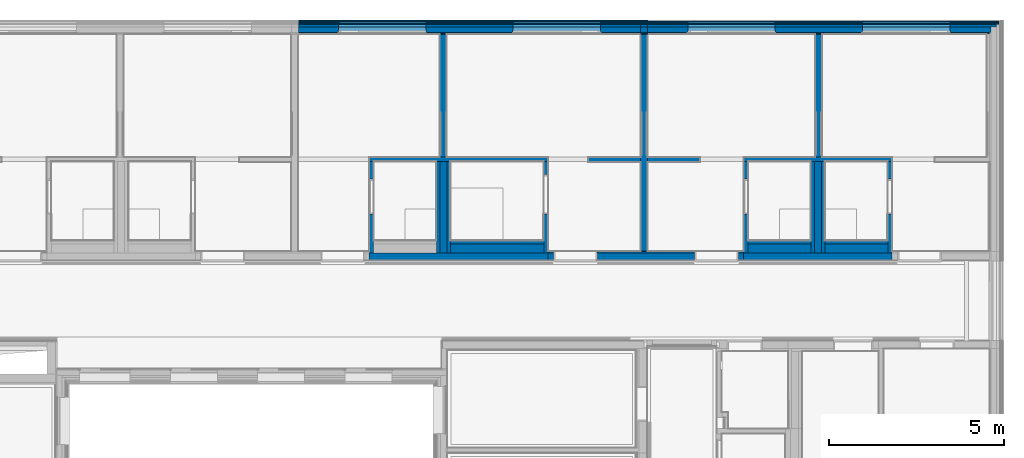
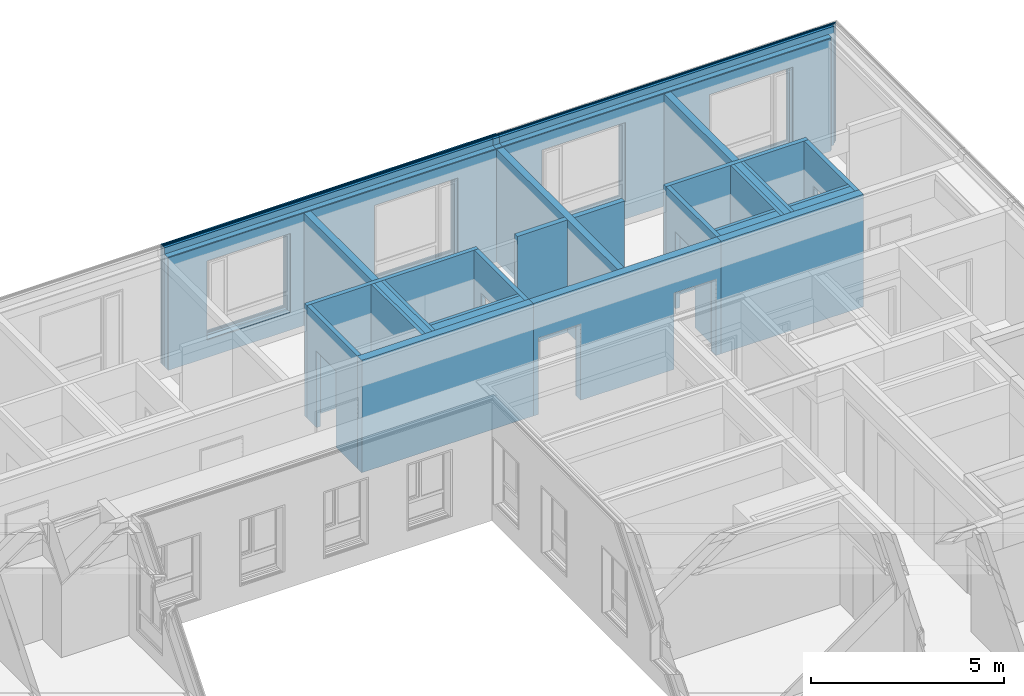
# One storey, part 56 of 222: 47 walls, 34 openings.
"""IFC4 building model written with IfcOpenShell, lengths in metres."""

from ifc_helpers import new_model, entity, si_unit, converted_unit, derived_unit, frame, frame_2d, origin, origin_with_axes, place, context, subcontext, project, spatial, polyline, rectangle, outline, extrude, material, element, save


model = new_model("IFC4")

# Units and contexts
model_context = context("Model", 3, precision=1e-05, world=origin())
body_context = subcontext(model_context, "Body", "Model", "MODEL_VIEW")
ifc_project = project(units=[si_unit("LENGTHUNIT", "METRE"), si_unit("AREAUNIT", "SQUARE_METRE"), si_unit("VOLUMEUNIT", "CUBIC_METRE"), si_unit("MASSUNIT", "GRAM", prefix="KILO"), converted_unit("PLANEANGLEUNIT", "DEGREE", entity("IfcPlaneAngleMeasure", 0.0174532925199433), si_unit("PLANEANGLEUNIT", "RADIAN"), dimensions=[0, 0, 0, 0, 0, 0, 0]), derived_unit("THERMALTRANSMITTANCEUNIT", [(si_unit("POWERUNIT", "WATT"), 1), (si_unit("THERMODYNAMICTEMPERATUREUNIT", "KELVIN"), -1), (si_unit("LENGTHUNIT", "METRE"), -2)]), derived_unit("VOLUMETRICFLOWRATEUNIT", [(si_unit("LENGTHUNIT", "METRE"), 3), (converted_unit("TIMEUNIT", "hour", entity("IfcTimeMeasure", 3600.0), si_unit("TIMEUNIT", "SECOND"), dimensions=[0, 0, 1, 0, 0, 0, 0]), -1), (si_unit("LENGTHUNIT", "METRE"), -1)])], contexts=[model_context])

# Site, building, storey
site_placement = place(None, origin())
site = spatial("IfcSite", under=ifc_project, at=site_placement, Name="Psychiatrie Neubau Wunstorf", CompositionType="ELEMENT")
building_placement = place(site_placement, origin())
building = spatial("IfcBuilding", under=site, at=building_placement, Name="Neubau H2 Stationsgebäude", CompositionType="ELEMENT")
storey_placement = place(building_placement, frame((0.0, 0.0, 3.6)))
storey = spatial("IfcBuildingStorey", under=building, at=storey_placement, Name="H2 Ebene +1", CompositionType="ELEMENT", Elevation=3.6)

# Walls
ifc_material_1 = material(Name="WA-LB")
wall_1_placement = place(storey_placement, frame((95.9, 31.614, 0.0)))
element("IfcWall", 1, at=wall_1_placement, inside=storey, material=ifc_material_1, Name="2x Gipsfaserplatte", context=body_context, shape_type="SweptSolid", body=[
    extrude(rectangle(XDim=0.2, YDim=0.036, at=frame_2d((0.1, 0.018), x_axis=(1.0, 0.0))), origin_with_axes(), (0.0, 0.0, 1.0), 3.55),
])
ifc_material_2 = material(Name="WA-HD")
wall_2_placement = place(storey_placement, frame((95.9, 31.65, 0.0)))
element("IfcWall", 2, at=wall_2_placement, inside=storey, material=ifc_material_2, Name="Holzständer + Zwischendämmung", context=body_context, shape_type="SweptSolid", body=[
    extrude(rectangle(XDim=0.2, YDim=0.16, at=frame_2d((0.1, 0.08), x_axis=(1.0, 0.0))), origin_with_axes(), (0.0, 0.0, 1.0), 3.55),
])
ifc_material_3 = material(Name="WA-DL")
wall_3_placement = place(storey_placement, frame((95.9, 31.81, 0.0)))
element("IfcWall", 3, at=wall_3_placement, inside=storey, material=ifc_material_3, Name="Staffel + Zwischendämmung", context=body_context, shape_type="SweptSolid", body=[
    extrude(rectangle(XDim=0.2, YDim=0.08, at=frame_2d((0.1, 0.04), x_axis=(1.0, 0.0))), origin_with_axes(), (0.0, 0.0, 1.0), 3.75),
])
ifc_material_4 = material(Name="WA-LB")
wall_4_placement = place(storey_placement, frame((95.9, 31.89, 0.0)))
element("IfcWall", 4, at=wall_4_placement, inside=storey, material=ifc_material_4, context=body_context, shape_type="SweptSolid", body=[
    extrude(rectangle(XDim=0.2, YDim=0.036, at=frame_2d((0.1, 0.018), x_axis=(1.0, 0.0))), origin_with_axes(), (0.0, 0.0, 1.0), 3.75),
])
ifc_material_5 = material(Name="WA-KL")
wall_5_placement = place(storey_placement, frame((95.9, 31.926, 0.0)))
element("IfcWall", 5, at=wall_5_placement, inside=storey, material=ifc_material_5, Name="Konterlattung", context=body_context, shape_type="SweptSolid", body=[
    extrude(rectangle(XDim=0.2, YDim=0.024, at=frame_2d((0.1, 0.012), x_axis=(1.0, 0.0))), origin_with_axes(), (0.0, 0.0, 1.0), 3.75),
])
ifc_material_6 = material(Name="WA-TL")
wall_6_placement = place(storey_placement, frame((95.9, 31.95, 0.0)))
element("IfcWall", 6, at=wall_6_placement, inside=storey, material=ifc_material_6, Name="Traglattung", context=body_context, shape_type="SweptSolid", body=[
    extrude(rectangle(XDim=0.2, YDim=0.024, at=frame_2d((0.1, 0.012), x_axis=(1.0, 0.0))), origin_with_axes(), (0.0, 0.0, 1.0), 3.75),
])
ifc_material_7 = material(Name="WA-HS")
wall_7_placement = place(storey_placement, frame((95.9, 31.974, 0.0)))
element("IfcWall", 7, at=wall_7_placement, inside=storey, material=ifc_material_7, Name="Holzschindel", context=body_context, shape_type="SweptSolid", body=[
    extrude(rectangle(XDim=0.2, YDim=0.042, at=frame_2d((0.1, 0.021), x_axis=(1.0, 0.0))), origin_with_axes(), (0.0, 0.0, 1.0), 3.75),
])

# Wall, openings
ifc_material_8 = material(Name="WA-LB")
wall_8_placement = place(storey_placement, frame((96.1, 31.614, 0.0)))
wall_8 = element("IfcWall", 8, at=wall_8_placement, inside=storey, material=ifc_material_8, context=body_context, shape_type="SweptSolid", body=[
    extrude(rectangle(XDim=9.789, YDim=0.036, at=frame_2d((4.8945, 0.018), x_axis=(1.0, 0.0))), origin_with_axes(), (0.0, 0.0, 1.0), 3.55),
])
opening_1_placement = place(wall_8_placement, frame((6.15, 0.0, 0.55), z_axis=(0.0, 1.0, 0.0), x_axis=(0.0, 0.0, 1.0)))
element("IfcOpeningElement", 9, at=opening_1_placement, cuts=wall_8, Name="Fensteröffnung", ObjectType="Opening", context=body_context, shape_type="SweptSolid", body=[
    extrude(outline(polyline([(2.5, 2.5), (2.5, 0.0), (0.0, 0.0), (0.0, 2.5), (2.5, 2.5)])), origin_with_axes(), (0.0, 0.0, 1.0), 0.036),
])
opening_2_placement = place(wall_8_placement, frame((1.15, 0.0, 0.55), z_axis=(0.0, 1.0, 0.0), x_axis=(0.0, 0.0, 1.0)))
element("IfcOpeningElement", 10, at=opening_2_placement, cuts=wall_8, Name="Fensteröffnung", ObjectType="Opening", context=body_context, shape_type="SweptSolid", body=[
    extrude(outline(polyline([(2.5, 2.5), (2.5, 0.0), (0.0, 0.0), (0.0, 2.5), (2.5, 2.5)])), origin_with_axes(), (0.0, 0.0, 1.0), 0.036),
])

ifc_material_9 = material(Name="WA-HD")
wall_9_placement = place(storey_placement, frame((96.1, 31.65, 0.0)))
wall_9 = element("IfcWall", 11, at=wall_9_placement, inside=storey, material=ifc_material_9, context=body_context, shape_type="SweptSolid", body=[
    extrude(rectangle(XDim=9.825, YDim=0.16, at=frame_2d((4.9125, 0.08), x_axis=(1.0, 0.0))), origin_with_axes(), (0.0, 0.0, 1.0), 3.55),
])
opening_3_placement = place(wall_9_placement, frame((6.15, 0.0, 0.55), z_axis=(0.0, 1.0, 0.0), x_axis=(0.0, 0.0, 1.0)))
element("IfcOpeningElement", 12, at=opening_3_placement, cuts=wall_9, Name="Fensteröffnung", ObjectType="Opening", context=body_context, shape_type="SweptSolid", body=[
    extrude(outline(polyline([(2.5, 2.5), (2.5, 0.0), (0.0, 0.0), (0.0, 2.5), (2.5, 2.5)])), origin_with_axes(), (0.0, 0.0, 1.0), 0.16),
])
opening_4_placement = place(wall_9_placement, frame((1.15, 0.0, 0.55), z_axis=(0.0, 1.0, 0.0), x_axis=(0.0, 0.0, 1.0)))
element("IfcOpeningElement", 13, at=opening_4_placement, cuts=wall_9, Name="Fensteröffnung", ObjectType="Opening", context=body_context, shape_type="SweptSolid", body=[
    extrude(outline(polyline([(2.5, 2.5), (2.5, 0.0), (0.0, 0.0), (0.0, 2.5), (2.5, 2.5)])), origin_with_axes(), (0.0, 0.0, 1.0), 0.16),
])

ifc_material_10 = material(Name="WA-DL")
wall_10_placement = place(storey_placement, frame((96.1, 31.81, 0.0)))
wall_10 = element("IfcWall", 14, at=wall_10_placement, inside=storey, material=ifc_material_10, context=body_context, shape_type="SweptSolid", body=[
    extrude(rectangle(XDim=9.985, YDim=0.08, at=frame_2d((4.9925, 0.04), x_axis=(1.0, 0.0))), origin_with_axes(), (0.0, 0.0, 1.0), 3.75),
])
opening_5_placement = place(wall_10_placement, frame((6.15, 0.0, 0.55), z_axis=(0.0, 1.0, 0.0), x_axis=(0.0, 0.0, 1.0)))
element("IfcOpeningElement", 15, at=opening_5_placement, cuts=wall_10, Name="Fensteröffnung", ObjectType="Opening", context=body_context, shape_type="SweptSolid", body=[
    extrude(outline(polyline([(2.5, 2.5), (2.5, 0.0), (0.0, 0.0), (0.0, 2.5), (2.5, 2.5)])), origin_with_axes(), (0.0, 0.0, 1.0), 0.08),
])
opening_6_placement = place(wall_10_placement, frame((1.15, 0.0, 0.55), z_axis=(0.0, 1.0, 0.0), x_axis=(0.0, 0.0, 1.0)))
element("IfcOpeningElement", 16, at=opening_6_placement, cuts=wall_10, Name="Fensteröffnung", ObjectType="Opening", context=body_context, shape_type="SweptSolid", body=[
    extrude(outline(polyline([(2.5, 2.5), (2.5, 0.0), (0.0, 0.0), (0.0, 2.5), (2.5, 2.5)])), origin_with_axes(), (0.0, 0.0, 1.0), 0.08),
])

ifc_material_11 = material(Name="WA-LB")
wall_11_placement = place(storey_placement, frame((96.1, 31.89, 0.0)))
wall_11 = element("IfcWall", 17, at=wall_11_placement, inside=storey, material=ifc_material_11, context=body_context, shape_type="SweptSolid", body=[
    extrude(rectangle(XDim=10.065, YDim=0.036, at=frame_2d((5.0325, 0.018), x_axis=(1.0, 0.0))), origin_with_axes(), (0.0, 0.0, 1.0), 3.75),
])
opening_7_placement = place(wall_11_placement, frame((6.15, 0.0, 0.55), z_axis=(0.0, 1.0, 0.0), x_axis=(0.0, 0.0, 1.0)))
element("IfcOpeningElement", 18, at=opening_7_placement, cuts=wall_11, Name="Fensteröffnung", ObjectType="Opening", context=body_context, shape_type="SweptSolid", body=[
    extrude(outline(polyline([(2.5, 2.5), (2.5, 0.0), (0.0, 0.0), (0.0, 2.5), (2.5, 2.5)])), origin_with_axes(), (0.0, 0.0, 1.0), 0.036),
])
opening_8_placement = place(wall_11_placement, frame((1.15, 0.0, 0.55), z_axis=(0.0, 1.0, 0.0), x_axis=(0.0, 0.0, 1.0)))
element("IfcOpeningElement", 19, at=opening_8_placement, cuts=wall_11, Name="Fensteröffnung", ObjectType="Opening", context=body_context, shape_type="SweptSolid", body=[
    extrude(outline(polyline([(2.5, 2.5), (2.5, 0.0), (0.0, 0.0), (0.0, 2.5), (2.5, 2.5)])), origin_with_axes(), (0.0, 0.0, 1.0), 0.036),
])

ifc_material_12 = material(Name="WA-KL")
wall_12_placement = place(storey_placement, frame((96.1, 31.926, 0.0)))
wall_12 = element("IfcWall", 20, at=wall_12_placement, inside=storey, material=ifc_material_12, context=body_context, shape_type="SweptSolid", body=[
    extrude(rectangle(XDim=10.101, YDim=0.024, at=frame_2d((5.0505, 0.012), x_axis=(1.0, 0.0))), origin_with_axes(), (0.0, 0.0, 1.0), 3.75),
])
opening_9_placement = place(wall_12_placement, frame((6.15, 0.0, 0.55), z_axis=(0.0, 1.0, 0.0), x_axis=(0.0, 0.0, 1.0)))
element("IfcOpeningElement", 21, at=opening_9_placement, cuts=wall_12, Name="Fensteröffnung", ObjectType="Opening", context=body_context, shape_type="SweptSolid", body=[
    extrude(outline(polyline([(2.5, 2.5), (2.5, 0.0), (0.0, 0.0), (0.0, 2.5), (2.5, 2.5)])), origin_with_axes(), (0.0, 0.0, 1.0), 0.024),
])
opening_10_placement = place(wall_12_placement, frame((1.15, 0.0, 0.55), z_axis=(0.0, 1.0, 0.0), x_axis=(0.0, 0.0, 1.0)))
element("IfcOpeningElement", 22, at=opening_10_placement, cuts=wall_12, Name="Fensteröffnung", ObjectType="Opening", context=body_context, shape_type="SweptSolid", body=[
    extrude(outline(polyline([(2.5, 2.5), (2.5, 0.0), (0.0, 0.0), (0.0, 2.5), (2.5, 2.5)])), origin_with_axes(), (0.0, 0.0, 1.0), 0.024),
])

ifc_material_13 = material(Name="WA-TL")
wall_13_placement = place(storey_placement, frame((96.1, 31.95, 0.0)))
wall_13 = element("IfcWall", 23, at=wall_13_placement, inside=storey, material=ifc_material_13, context=body_context, shape_type="SweptSolid", body=[
    extrude(rectangle(XDim=10.125, YDim=0.024, at=frame_2d((5.0625, 0.012), x_axis=(1.0, 0.0))), origin_with_axes(), (0.0, 0.0, 1.0), 3.75),
])
opening_11_placement = place(wall_13_placement, frame((6.15, 0.0, 0.55), z_axis=(0.0, 1.0, 0.0), x_axis=(0.0, 0.0, 1.0)))
element("IfcOpeningElement", 24, at=opening_11_placement, cuts=wall_13, Name="Fensteröffnung", ObjectType="Opening", context=body_context, shape_type="SweptSolid", body=[
    extrude(outline(polyline([(2.5, 2.5), (2.5, 0.0), (0.0, 0.0), (0.0, 2.5), (2.5, 2.5)])), origin_with_axes(), (0.0, 0.0, 1.0), 0.024),
])
opening_12_placement = place(wall_13_placement, frame((1.15, 0.0, 0.55), z_axis=(0.0, 1.0, 0.0), x_axis=(0.0, 0.0, 1.0)))
element("IfcOpeningElement", 25, at=opening_12_placement, cuts=wall_13, Name="Fensteröffnung", ObjectType="Opening", context=body_context, shape_type="SweptSolid", body=[
    extrude(outline(polyline([(2.5, 2.5), (2.5, 0.0), (0.0, 0.0), (0.0, 2.5), (2.5, 2.5)])), origin_with_axes(), (0.0, 0.0, 1.0), 0.024),
])

ifc_material_14 = material(Name="WA-LB")
wall_14_placement = place(storey_placement, frame((86.1, 31.614, 0.0)))
wall_14 = element("IfcWall", 26, at=wall_14_placement, inside=storey, material=ifc_material_14, context=body_context, shape_type="SweptSolid", body=[
    extrude(rectangle(XDim=9.8, YDim=0.036, at=frame_2d((4.9, 0.018), x_axis=(1.0, 0.0))), origin_with_axes(), (0.0, 0.0, 1.0), 3.55),
])
opening_13_placement = place(wall_14_placement, frame((1.15, 0.0, 0.55), z_axis=(0.0, 1.0, 0.0), x_axis=(0.0, 0.0, 1.0)))
element("IfcOpeningElement", 27, at=opening_13_placement, cuts=wall_14, Name="Fensteröffnung", ObjectType="Opening", context=body_context, shape_type="SweptSolid", body=[
    extrude(outline(polyline([(2.5, 2.5), (2.5, 0.0), (0.0, 0.0), (0.0, 2.5), (2.5, 2.5)])), origin_with_axes(), (0.0, 0.0, 1.0), 0.036),
])
opening_14_placement = place(wall_14_placement, frame((6.15, 0.0, 0.55), z_axis=(0.0, 1.0, 0.0), x_axis=(0.0, 0.0, 1.0)))
element("IfcOpeningElement", 28, at=opening_14_placement, cuts=wall_14, Name="Fensteröffnung", ObjectType="Opening", context=body_context, shape_type="SweptSolid", body=[
    extrude(outline(polyline([(2.5, 2.5), (2.5, 0.0), (0.0, 0.0), (0.0, 2.5), (2.5, 2.5)])), origin_with_axes(), (0.0, 0.0, 1.0), 0.036),
])

ifc_material_15 = material(Name="WA-HD")
wall_15_placement = place(storey_placement, frame((86.1, 31.65, 0.0)))
wall_15 = element("IfcWall", 29, at=wall_15_placement, inside=storey, material=ifc_material_15, context=body_context, shape_type="SweptSolid", body=[
    extrude(rectangle(XDim=9.8, YDim=0.16, at=frame_2d((4.9, 0.08), x_axis=(1.0, 0.0))), origin_with_axes(), (0.0, 0.0, 1.0), 3.55),
])
opening_15_placement = place(wall_15_placement, frame((6.15, 0.0, 0.55), z_axis=(0.0, 1.0, 0.0), x_axis=(0.0, 0.0, 1.0)))
element("IfcOpeningElement", 30, at=opening_15_placement, cuts=wall_15, Name="Fensteröffnung", ObjectType="Opening", context=body_context, shape_type="SweptSolid", body=[
    extrude(outline(polyline([(2.5, 2.5), (2.5, 0.0), (0.0, 0.0), (0.0, 2.5), (2.5, 2.5)])), origin_with_axes(), (0.0, 0.0, 1.0), 0.16),
])
opening_16_placement = place(wall_15_placement, frame((1.15, 0.0, 0.55), z_axis=(0.0, 1.0, 0.0), x_axis=(0.0, 0.0, 1.0)))
element("IfcOpeningElement", 31, at=opening_16_placement, cuts=wall_15, Name="Fensteröffnung", ObjectType="Opening", context=body_context, shape_type="SweptSolid", body=[
    extrude(outline(polyline([(2.5, 2.5), (2.5, 0.0), (0.0, 0.0), (0.0, 2.5), (2.5, 2.5)])), origin_with_axes(), (0.0, 0.0, 1.0), 0.16),
])

ifc_material_16 = material(Name="WA-DL")
wall_16_placement = place(storey_placement, frame((86.1, 31.81, 0.0)))
wall_16 = element("IfcWall", 32, at=wall_16_placement, inside=storey, material=ifc_material_16, context=body_context, shape_type="SweptSolid", body=[
    extrude(rectangle(XDim=9.8, YDim=0.08, at=frame_2d((4.9, 0.04), x_axis=(1.0, 0.0))), origin_with_axes(), (0.0, 0.0, 1.0), 3.75),
])
opening_17_placement = place(wall_16_placement, frame((1.15, 0.0, 0.55), z_axis=(0.0, 1.0, 0.0), x_axis=(0.0, 0.0, 1.0)))
element("IfcOpeningElement", 33, at=opening_17_placement, cuts=wall_16, Name="Fensteröffnung", ObjectType="Opening", context=body_context, shape_type="SweptSolid", body=[
    extrude(outline(polyline([(2.5, 2.5), (2.5, 0.0), (0.0, 0.0), (0.0, 2.5), (2.5, 2.5)])), origin_with_axes(), (0.0, 0.0, 1.0), 0.08),
])
opening_18_placement = place(wall_16_placement, frame((6.15, 0.0, 0.55), z_axis=(0.0, 1.0, 0.0), x_axis=(0.0, 0.0, 1.0)))
element("IfcOpeningElement", 34, at=opening_18_placement, cuts=wall_16, Name="Fensteröffnung", ObjectType="Opening", context=body_context, shape_type="SweptSolid", body=[
    extrude(outline(polyline([(2.5, 2.5), (2.5, 0.0), (0.0, 0.0), (0.0, 2.5), (2.5, 2.5)])), origin_with_axes(), (0.0, 0.0, 1.0), 0.08),
])

ifc_material_17 = material(Name="WA-LB")
wall_17_placement = place(storey_placement, frame((86.1, 31.89, 0.0)))
wall_17 = element("IfcWall", 35, at=wall_17_placement, inside=storey, material=ifc_material_17, context=body_context, shape_type="SweptSolid", body=[
    extrude(rectangle(XDim=9.8, YDim=0.036, at=frame_2d((4.9, 0.018), x_axis=(1.0, 0.0))), origin_with_axes(), (0.0, 0.0, 1.0), 3.75),
])
opening_19_placement = place(wall_17_placement, frame((6.15, 0.0, 0.55), z_axis=(0.0, 1.0, 0.0), x_axis=(0.0, 0.0, 1.0)))
element("IfcOpeningElement", 36, at=opening_19_placement, cuts=wall_17, Name="Fensteröffnung", ObjectType="Opening", context=body_context, shape_type="SweptSolid", body=[
    extrude(outline(polyline([(2.5, 2.5), (2.5, 0.0), (0.0, 0.0), (0.0, 2.5), (2.5, 2.5)])), origin_with_axes(), (0.0, 0.0, 1.0), 0.036),
])
opening_20_placement = place(wall_17_placement, frame((1.15, 0.0, 0.55), z_axis=(0.0, 1.0, 0.0), x_axis=(0.0, 0.0, 1.0)))
element("IfcOpeningElement", 37, at=opening_20_placement, cuts=wall_17, Name="Fensteröffnung", ObjectType="Opening", context=body_context, shape_type="SweptSolid", body=[
    extrude(outline(polyline([(2.5, 2.5), (2.5, 0.0), (0.0, 0.0), (0.0, 2.5), (2.5, 2.5)])), origin_with_axes(), (0.0, 0.0, 1.0), 0.036),
])

ifc_material_18 = material(Name="WA-KL")
wall_18_placement = place(storey_placement, frame((86.1, 31.926, 0.0)))
wall_18 = element("IfcWall", 38, at=wall_18_placement, inside=storey, material=ifc_material_18, context=body_context, shape_type="SweptSolid", body=[
    extrude(rectangle(XDim=9.8, YDim=0.024, at=frame_2d((4.9, 0.012), x_axis=(1.0, 0.0))), origin_with_axes(), (0.0, 0.0, 1.0), 3.75),
])
opening_21_placement = place(wall_18_placement, frame((1.15, 0.0, 0.55), z_axis=(0.0, 1.0, 0.0), x_axis=(0.0, 0.0, 1.0)))
element("IfcOpeningElement", 39, at=opening_21_placement, cuts=wall_18, Name="Fensteröffnung", ObjectType="Opening", context=body_context, shape_type="SweptSolid", body=[
    extrude(outline(polyline([(2.5, 2.5), (2.5, 0.0), (0.0, 0.0), (0.0, 2.5), (2.5, 2.5)])), origin_with_axes(), (0.0, 0.0, 1.0), 0.024),
])
opening_22_placement = place(wall_18_placement, frame((6.15, 0.0, 0.55), z_axis=(0.0, 1.0, 0.0), x_axis=(0.0, 0.0, 1.0)))
element("IfcOpeningElement", 40, at=opening_22_placement, cuts=wall_18, Name="Fensteröffnung", ObjectType="Opening", context=body_context, shape_type="SweptSolid", body=[
    extrude(outline(polyline([(2.5, 2.5), (2.5, 0.0), (0.0, 0.0), (0.0, 2.5), (2.5, 2.5)])), origin_with_axes(), (0.0, 0.0, 1.0), 0.024),
])

ifc_material_19 = material(Name="WA-TL")
wall_19_placement = place(storey_placement, frame((86.1, 31.95, 0.0)))
wall_19 = element("IfcWall", 41, at=wall_19_placement, inside=storey, material=ifc_material_19, context=body_context, shape_type="SweptSolid", body=[
    extrude(rectangle(XDim=9.8, YDim=0.024, at=frame_2d((4.9, 0.012), x_axis=(1.0, 0.0))), origin_with_axes(), (0.0, 0.0, 1.0), 3.75),
])
opening_23_placement = place(wall_19_placement, frame((1.15, 0.0, 0.55), z_axis=(0.0, 1.0, 0.0), x_axis=(0.0, 0.0, 1.0)))
element("IfcOpeningElement", 42, at=opening_23_placement, cuts=wall_19, Name="Fensteröffnung", ObjectType="Opening", context=body_context, shape_type="SweptSolid", body=[
    extrude(outline(polyline([(2.5, 2.5), (2.5, 0.0), (0.0, 0.0), (0.0, 2.5), (2.5, 2.5)])), origin_with_axes(), (0.0, 0.0, 1.0), 0.024),
])
opening_24_placement = place(wall_19_placement, frame((6.15, 0.0, 0.55), z_axis=(0.0, 1.0, 0.0), x_axis=(0.0, 0.0, 1.0)))
element("IfcOpeningElement", 43, at=opening_24_placement, cuts=wall_19, Name="Fensteröffnung", ObjectType="Opening", context=body_context, shape_type="SweptSolid", body=[
    extrude(outline(polyline([(2.5, 2.5), (2.5, 0.0), (0.0, 0.0), (0.0, 2.5), (2.5, 2.5)])), origin_with_axes(), (0.0, 0.0, 1.0), 0.024),
])

ifc_material_20 = material(Name="WA-HS")
wall_20_placement = place(storey_placement, frame((86.1, 31.974, 0.0)))
wall_20 = element("IfcWall", 44, at=wall_20_placement, inside=storey, material=ifc_material_20, context=body_context, shape_type="SweptSolid", body=[
    extrude(rectangle(XDim=9.8, YDim=0.042, at=frame_2d((4.9, 0.021), x_axis=(1.0, 0.0))), origin_with_axes(), (0.0, 0.0, 1.0), 3.75),
])
opening_25_placement = place(wall_20_placement, frame((6.15, 0.0, 0.55), z_axis=(0.0, 1.0, 0.0), x_axis=(0.0, 0.0, 1.0)))
element("IfcOpeningElement", 45, at=opening_25_placement, cuts=wall_20, Name="Fensteröffnung", ObjectType="Opening", context=body_context, shape_type="SweptSolid", body=[
    extrude(outline(polyline([(2.5, 2.5), (2.5, 0.0), (0.0, 0.0), (0.0, 2.5), (2.5, 2.5)])), origin_with_axes(), (0.0, 0.0, 1.0), 0.042),
])
opening_26_placement = place(wall_20_placement, frame((1.15, 0.0, 0.55), z_axis=(0.0, 1.0, 0.0), x_axis=(0.0, 0.0, 1.0)))
element("IfcOpeningElement", 46, at=opening_26_placement, cuts=wall_20, Name="Fensteröffnung", ObjectType="Opening", context=body_context, shape_type="SweptSolid", body=[
    extrude(outline(polyline([(2.5, 2.5), (2.5, 0.0), (0.0, 0.0), (0.0, 2.5), (2.5, 2.5)])), origin_with_axes(), (0.0, 0.0, 1.0), 0.042),
])

# Walls
ifc_material_21 = material(Name="WI-LB")
wall_21_placement = place(storey_placement, frame((95.9, 31.614, 0.0), z_axis=(0.0, 0.0, 1.0), x_axis=(0.0, -1.0, 0.0)))
element("IfcWall", 47, at=wall_21_placement, inside=storey, material=ifc_material_21, context=body_context, shape_type="SweptSolid", body=[
    extrude(rectangle(XDim=6.26449999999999, YDim=0.2, at=frame_2d((3.13224999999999, 0.1), x_axis=(1.0, 0.0))), origin_with_axes(), (0.0, 0.0, 1.0), 3.55),
])
ifc_material_22 = material(Name="WI-LB")
wall_22_placement = place(storey_placement, frame((90.15, 31.614, 0.0), z_axis=(0.0, 0.0, 1.0), x_axis=(0.0, -1.0, 0.0)))
element("IfcWall", 48, at=wall_22_placement, inside=storey, material=ifc_material_22, context=body_context, shape_type="SweptSolid", body=[
    extrude(rectangle(XDim=3.52449999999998, YDim=0.2, at=frame_2d((1.76224999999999, 0.1), x_axis=(1.0, 0.0))), origin_with_axes(), (0.0, 0.0, 1.0), 3.55),
])
ifc_material_23 = material(Name="WI-LB")
wall_23_placement = place(storey_placement, frame((100.9, 31.614, 0.0), z_axis=(0.0, 0.0, 1.0), x_axis=(4.12878854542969e-15, -1.0, 0.0)))
element("IfcWall", 49, at=wall_23_placement, inside=storey, material=ifc_material_23, context=body_context, shape_type="SweptSolid", body=[
    extrude(rectangle(XDim=3.52449999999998, YDim=0.2, at=frame_2d((1.76224999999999, 0.1), x_axis=(1.0, 0.0))), origin_with_axes(), (0.0, 0.0, 1.0), 3.55),
])

# Wall, opening
ifc_material_24 = material(Name="WI-LB")
wall_24_placement = place(storey_placement, frame((98.85, 27.9645, 0.0), z_axis=(0.0, 0.0, 1.0), x_axis=(0.0, -1.0, 0.0)))
wall_24 = element("IfcWall", 50, at=wall_24_placement, inside=storey, material=ifc_material_24, context=body_context, shape_type="SweptSolid", body=[
    extrude(rectangle(XDim=2.61500000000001, YDim=0.125, at=frame_2d((1.30750000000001, 0.0625), x_axis=(1.0, 0.0))), origin_with_axes(), (0.0, 0.0, 1.0), 3.55),
])
opening_27_placement = place(wall_24_placement, frame((1.51000000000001, 0.125, 0.0), z_axis=(0.0, -1.0, 0.0), x_axis=(0.0, 0.0, 1.0)))
element("IfcOpeningElement", 51, at=opening_27_placement, cuts=wall_24, Name="Türöffnung", ObjectType="Opening", context=body_context, shape_type="SweptSolid", body=[
    extrude(outline(polyline([(2.41, 1.01), (2.41, 0.0), (0.0, 0.0), (0.0, 1.01), (2.41, 1.01)])), origin_with_axes(), (0.0, 0.0, 1.0), 0.125),
])

ifc_material_25 = material(Name="WI-LB")
wall_25_placement = place(storey_placement, frame((102.975, 27.9645, 0.0), z_axis=(0.0, 0.0, 1.0), x_axis=(0.0, -1.0, 0.0)))
wall_25 = element("IfcWall", 52, at=wall_25_placement, inside=storey, material=ifc_material_25, context=body_context, shape_type="SweptSolid", body=[
    extrude(rectangle(XDim=2.61500000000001, YDim=0.125, at=frame_2d((1.3075, 0.0625), x_axis=(1.0, 0.0))), origin_with_axes(), (0.0, 0.0, 1.0), 3.55),
])
opening_28_placement = place(wall_25_placement, frame((0.5, 0.0, 0.0), z_axis=(0.0, 1.0, 0.0), x_axis=(0.0, 0.0, 1.0)))
element("IfcOpeningElement", 53, at=opening_28_placement, cuts=wall_25, Name="Türöffnung", ObjectType="Opening", context=body_context, shape_type="SweptSolid", body=[
    extrude(outline(polyline([(2.41, 1.01), (2.41, 0.0), (0.0, 0.0), (0.0, 1.01), (2.41, 1.01)])), origin_with_axes(), (0.0, 0.0, 1.0), 0.125),
])

ifc_material_26 = material(Name="WI-LB")
wall_26_placement = place(storey_placement, frame((88.125, 27.9645000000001, 0.0), z_axis=(0.0, 0.0, 1.0), x_axis=(0.0, -1.0, 0.0)))
wall_26 = element("IfcWall", 54, at=wall_26_placement, inside=storey, material=ifc_material_26, context=body_context, shape_type="SweptSolid", body=[
    extrude(rectangle(XDim=2.61500000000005, YDim=0.125, at=frame_2d((1.30750000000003, 0.0625), x_axis=(1.0, 0.0))), origin_with_axes(), (0.0, 0.0, 1.0), 3.55),
])
opening_29_placement = place(wall_26_placement, frame((1.51000000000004, 0.125, 0.0), z_axis=(0.0, -1.0, 0.0), x_axis=(0.0, 0.0, 1.0)))
element("IfcOpeningElement", 55, at=opening_29_placement, cuts=wall_26, Name="Türöffnung", ObjectType="Opening", context=body_context, shape_type="SweptSolid", body=[
    extrude(outline(polyline([(2.41, 1.01), (2.41, 0.0), (0.0, 0.0), (0.0, 1.01), (2.41, 1.01)])), origin_with_axes(), (0.0, 0.0, 1.0), 0.125),
])

ifc_material_27 = material(Name="WI-LB")
wall_27_placement = place(storey_placement, frame((93.125, 27.9645000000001, 0.0), z_axis=(0.0, 0.0, 1.0), x_axis=(0.0, -1.0, 0.0)))
wall_27 = element("IfcWall", 56, at=wall_27_placement, inside=storey, material=ifc_material_27, context=body_context, shape_type="SweptSolid", body=[
    extrude(rectangle(XDim=2.61500000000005, YDim=0.125, at=frame_2d((1.30750000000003, 0.0625), x_axis=(1.0, 0.0))), origin_with_axes(), (0.0, 0.0, 1.0), 3.55),
])
opening_30_placement = place(wall_27_placement, frame((0.375000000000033, 0.0, 0.0), z_axis=(0.0, 1.0, 0.0), x_axis=(0.0, 0.0, 1.0)))
element("IfcOpeningElement", 57, at=opening_30_placement, cuts=wall_27, Name="Türöffnung", ObjectType="Opening", context=body_context, shape_type="SweptSolid", body=[
    extrude(outline(polyline([(2.41, 1.135), (2.41, 0.0), (0.0, 0.0), (0.0, 1.135), (2.41, 1.135)])), origin_with_axes(), (0.0, 0.0, 1.0), 0.125),
])

# Walls
ifc_material_28 = material(Name="WI-LB")
wall_28_placement = place(storey_placement, frame((98.85, 27.9645, 0.0)))
element("IfcWall", 58, at=wall_28_placement, inside=storey, material=ifc_material_28, context=body_context, shape_type="SweptSolid", body=[
    extrude(rectangle(XDim=4.25, YDim=0.125, at=frame_2d((2.125, 0.0625), x_axis=(1.0, 0.0))), origin_with_axes(), (0.0, 0.0, 1.0), 3.55),
])
ifc_material_29 = material(Name="WI-LB")
wall_29_placement = place(storey_placement, frame((88.125, 27.9645000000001, 0.0)))
element("IfcWall", 59, at=wall_29_placement, inside=storey, material=ifc_material_29, context=body_context, shape_type="SweptSolid", body=[
    extrude(rectangle(XDim=5.12499999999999, YDim=0.125, at=frame_2d((2.56249999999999, 0.0625), x_axis=(1.0, 0.0))), origin_with_axes(), (0.0, 0.0, 1.0), 3.55),
])
ifc_material_30 = material(Name="WI-LB")
wall_30_placement = place(storey_placement, frame((94.4, 27.9395000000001, 0.0)))
element("IfcWall", 60, at=wall_30_placement, inside=storey, material=ifc_material_30, context=body_context, shape_type="SweptSolid", body=[
    extrude(rectangle(XDim=1.5, YDim=0.15, at=frame_2d((0.75, 0.075), x_axis=(1.0, 0.0))), origin_with_axes(), (0.0, 0.0, 1.0), 3.55),
])
ifc_material_31 = material(Name="WI-LB")
wall_31_placement = place(storey_placement, frame((96.1, 27.9395000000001, 0.0)))
element("IfcWall", 61, at=wall_31_placement, inside=storey, material=ifc_material_31, context=body_context, shape_type="SweptSolid", body=[
    extrude(rectangle(XDim=1.49999999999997, YDim=0.15, at=frame_2d((0.749999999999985, 0.075), x_axis=(1.0, 0.0))), origin_with_axes(), (0.0, 0.0, 1.0), 3.55),
])

# Wall, openings
ifc_material_32 = material(Name="WI-HW 60")
wall_32_placement = place(storey_placement, frame((93.25, 25.1175, 0.0)))
wall_32 = element("IfcWall", 62, at=wall_32_placement, inside=storey, material=ifc_material_32, context=body_context, shape_type="SweptSolid", body=[
    extrude(rectangle(XDim=5.60000000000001, YDim=0.232, at=frame_2d((2.80000000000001, 0.116), x_axis=(1.0, 0.0))), origin_with_axes(), (0.0, 0.0, 1.0), 3.55),
])
opening_31_placement = place(wall_32_placement, frame((0.15, 0.0, 0.0), z_axis=(0.0, 1.0, 0.0), x_axis=(0.0, 0.0, 1.0)))
element("IfcOpeningElement", 63, at=opening_31_placement, cuts=wall_32, Name="Türöffnung", ObjectType="Opening", context=body_context, shape_type="SweptSolid", body=[
    extrude(outline(polyline([(2.41, 1.26), (2.41, 0.0), (0.0, 0.0), (0.0, 1.26), (2.41, 1.26)])), origin_with_axes(), (0.0, 0.0, 1.0), 0.232),
])
opening_32_placement = place(wall_32_placement, frame((4.19000000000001, 0.0, 0.0), z_axis=(0.0, 1.0, 0.0), x_axis=(0.0, 0.0, 1.0)))
element("IfcOpeningElement", 64, at=opening_32_placement, cuts=wall_32, Name="Türöffnung", ObjectType="Opening", context=body_context, shape_type="SweptSolid", body=[
    extrude(outline(polyline([(2.41, 1.26), (2.41, 0.0), (0.0, 0.0), (0.0, 1.26), (2.41, 1.26)])), origin_with_axes(), (0.0, 0.0, 1.0), 0.232000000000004),
])

ifc_material_33 = material(Name="WI-LB")
wall_33_placement = place(storey_placement, frame((93.25, 25.3495, 0.0)))
wall_33 = element("IfcWall", 65, at=wall_33_placement, inside=storey, material=ifc_material_33, context=body_context, shape_type="SweptSolid", body=[
    extrude(rectangle(XDim=5.60000000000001, YDim=0.04, at=frame_2d((2.80000000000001, 0.02), x_axis=(1.0, 0.0))), origin_with_axes(), (0.0, 0.0, 1.0), 2.85),
])
opening_33_placement = place(wall_33_placement, frame((0.15, 0.0, 0.0), z_axis=(0.0, 1.0, 0.0), x_axis=(0.0, 0.0, 1.0)))
element("IfcOpeningElement", 66, at=opening_33_placement, cuts=wall_33, Name="Türöffnung", ObjectType="Opening", context=body_context, shape_type="SweptSolid", body=[
    extrude(outline(polyline([(2.41, 1.26), (2.41, 0.0), (0.0, 0.0), (0.0, 1.26), (2.41, 1.26)])), origin_with_axes(), (0.0, 0.0, 1.0), 0.0399999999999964),
])
opening_34_placement = place(wall_33_placement, frame((4.19000000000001, 0.0, 0.0), z_axis=(0.0, 1.0, 0.0), x_axis=(0.0, 0.0, 1.0)))
element("IfcOpeningElement", 67, at=opening_34_placement, cuts=wall_33, Name="Türöffnung", ObjectType="Opening", context=body_context, shape_type="SweptSolid", body=[
    extrude(outline(polyline([(2.41, 1.26), (2.41, 0.0), (0.0, 0.0), (0.0, 1.26), (2.41, 1.26)])), origin_with_axes(), (0.0, 0.0, 1.0), 0.04),
])

# Walls
ifc_material_34 = material(Name="WI-HW 60")
wall_34_placement = place(storey_placement, frame((88.125, 25.1175, 0.0)))
element("IfcWall", 68, at=wall_34_placement, inside=storey, material=ifc_material_34, context=body_context, shape_type="SweptSolid", body=[
    extrude(rectangle(XDim=5.12499999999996, YDim=0.232, at=frame_2d((2.56249999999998, 0.116), x_axis=(1.0, 0.0))), origin_with_axes(), (0.0, 0.0, 1.0), 3.55),
])
ifc_material_35 = material(Name="WI-HW 60")
wall_35_placement = place(storey_placement, frame((98.85, 25.1175, 0.0)))
element("IfcWall", 69, at=wall_35_placement, inside=storey, material=ifc_material_35, context=body_context, shape_type="SweptSolid", body=[
    extrude(rectangle(XDim=4.25000000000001, YDim=0.232, at=frame_2d((2.12500000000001, 0.116), x_axis=(1.0, 0.0))), origin_with_axes(), (0.0, 0.0, 1.0), 3.55),
])
ifc_material_36 = material(Name="WI-IW")
wall_36_placement = place(storey_placement, frame((102.975, 25.6995, 0.0), z_axis=(0.0, 0.0, 1.0), x_axis=(-1.0, 0.0, 0.0)))
element("IfcWall", 70, at=wall_36_placement, inside=storey, material=ifc_material_36, context=body_context, shape_type="SweptSolid", body=[
    extrude(rectangle(XDim=1.8, YDim=0.1, at=frame_2d((0.9, 0.05), x_axis=(1.0, 0.0))), origin_with_axes(), (0.0, 0.0, 1.0), 3.55),
])
ifc_material_37 = material(Name="Installationsraum")
wall_37_placement = place(storey_placement, frame((102.975, 25.5995, 0.0), z_axis=(0.0, 0.0, 1.0), x_axis=(-1.0, 0.0, 0.0)))
element("IfcWall", 71, at=wall_37_placement, inside=storey, material=ifc_material_37, context=body_context, shape_type="SweptSolid", body=[
    extrude(rectangle(XDim=1.8, YDim=0.25, at=frame_2d((0.9, 0.125), x_axis=(1.0, 0.0))), origin_with_axes(), (0.0, 0.0, 1.0), 3.55),
])
ifc_material_38 = material(Name="WI-IW")
wall_38_placement = place(storey_placement, frame((100.775, 27.9645, 0.0), z_axis=(0.0, 0.0, 1.0), x_axis=(0.0, -1.0, 0.0)))
element("IfcWall", 72, at=wall_38_placement, inside=storey, material=ifc_material_38, context=body_context, shape_type="SweptSolid", body=[
    extrude(rectangle(XDim=2.61500000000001, YDim=0.1, at=frame_2d((1.3075, 0.05), x_axis=(1.0, 0.0))), origin_with_axes(), (0.0, 0.0, 1.0), 3.55),
])
ifc_material_39 = material(Name="Installationsraum")
wall_39_placement = place(storey_placement, frame((100.875, 27.9645, 0.0), z_axis=(0.0, 0.0, 1.0), x_axis=(0.0, -1.0, 0.0)))
element("IfcWall", 73, at=wall_39_placement, inside=storey, material=ifc_material_39, context=body_context, shape_type="SweptSolid", body=[
    extrude(rectangle(XDim=2.61500000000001, YDim=0.2, at=frame_2d((1.3075, 0.1), x_axis=(1.0, 0.0))), origin_with_axes(), (0.0, 0.0, 1.0), 3.55),
])
ifc_material_40 = material(Name="WI-IW")
wall_40_placement = place(storey_placement, frame((101.075, 27.9645, 0.0), z_axis=(0.0, 0.0, 1.0), x_axis=(0.0, -1.0, 0.0)))
element("IfcWall", 74, at=wall_40_placement, inside=storey, material=ifc_material_40, context=body_context, shape_type="SweptSolid", body=[
    extrude(rectangle(XDim=2.61500000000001, YDim=0.1, at=frame_2d((1.3075, 0.05), x_axis=(1.0, 0.0))), origin_with_axes(), (0.0, 0.0, 1.0), 3.55),
])
ifc_material_41 = material(Name="WI-IW")
wall_41_placement = place(storey_placement, frame((100.775, 25.6995, 0.0), z_axis=(0.0, 0.0, 1.0), x_axis=(-1.0, 0.0, 0.0)))
element("IfcWall", 75, at=wall_41_placement, inside=storey, material=ifc_material_41, context=body_context, shape_type="SweptSolid", body=[
    extrude(rectangle(XDim=1.80000000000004, YDim=0.1, at=frame_2d((0.900000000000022, 0.05), x_axis=(1.0, 0.0))), origin_with_axes(), (0.0, 0.0, 1.0), 3.55),
])
ifc_material_42 = material(Name="Installationsraum")
wall_42_placement = place(storey_placement, frame((100.775, 25.5995, 0.0), z_axis=(0.0, 0.0, 1.0), x_axis=(-1.0, 0.0, 0.0)))
element("IfcWall", 76, at=wall_42_placement, inside=storey, material=ifc_material_42, context=body_context, shape_type="SweptSolid", body=[
    extrude(rectangle(XDim=1.80000000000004, YDim=0.25, at=frame_2d((0.900000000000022, 0.125), x_axis=(1.0, 0.0))), origin_with_axes(), (0.0, 0.0, 1.0), 3.55),
])
ifc_material_43 = material(Name="WI-IW")
wall_43_placement = place(storey_placement, frame((93.125, 25.6995, 0.0), z_axis=(0.0, 0.0, 1.0), x_axis=(-1.0, 0.0, 0.0)))
element("IfcWall", 77, at=wall_43_placement, inside=storey, material=ifc_material_43, context=body_context, shape_type="SweptSolid", body=[
    extrude(rectangle(XDim=2.67499999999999, YDim=0.1, at=frame_2d((1.33749999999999, 0.05), x_axis=(1.0, 0.0))), origin_with_axes(), (0.0, 0.0, 1.0), 3.55),
])
ifc_material_44 = material(Name="Installationsraum")
wall_44_placement = place(storey_placement, frame((93.125, 25.5995, 0.0), z_axis=(0.0, 0.0, 1.0), x_axis=(-1.0, 0.0, 0.0)))
element("IfcWall", 78, at=wall_44_placement, inside=storey, material=ifc_material_44, context=body_context, shape_type="SweptSolid", body=[
    extrude(rectangle(XDim=2.67499999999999, YDim=0.25, at=frame_2d((1.33749999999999, 0.125), x_axis=(1.0, 0.0))), origin_with_axes(), (0.0, 0.0, 1.0), 3.55),
])
ifc_material_45 = material(Name="WI-IW")
wall_45_placement = place(storey_placement, frame((90.05, 27.9645, 0.0), z_axis=(0.0, 0.0, 1.0), x_axis=(0.0, -1.0, 0.0)))
element("IfcWall", 79, at=wall_45_placement, inside=storey, material=ifc_material_45, context=body_context, shape_type="SweptSolid", body=[
    extrude(rectangle(XDim=2.61500000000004, YDim=0.1, at=frame_2d((1.30750000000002, 0.05), x_axis=(1.0, 0.0))), origin_with_axes(), (0.0, 0.0, 1.0), 3.55),
])
ifc_material_46 = material(Name="Installationsraum")
wall_46_placement = place(storey_placement, frame((90.15, 27.9645, 0.0), z_axis=(0.0, 0.0, 1.0), x_axis=(0.0, -1.0, 0.0)))
element("IfcWall", 80, at=wall_46_placement, inside=storey, material=ifc_material_46, context=body_context, shape_type="SweptSolid", body=[
    extrude(rectangle(XDim=2.61500000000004, YDim=0.2, at=frame_2d((1.30750000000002, 0.1), x_axis=(1.0, 0.0))), origin_with_axes(), (0.0, 0.0, 1.0), 3.55),
])
ifc_material_47 = material(Name="WI-IW")
wall_47_placement = place(storey_placement, frame((90.35, 27.9645, 0.0), z_axis=(0.0, 0.0, 1.0), x_axis=(0.0, -1.0, 0.0)))
element("IfcWall", 81, at=wall_47_placement, inside=storey, material=ifc_material_47, context=body_context, shape_type="SweptSolid", body=[
    extrude(rectangle(XDim=2.61500000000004, YDim=0.1, at=frame_2d((1.30750000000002, 0.05), x_axis=(1.0, 0.0))), origin_with_axes(), (0.0, 0.0, 1.0), 3.55),
])

save(model, "model.ifc")
